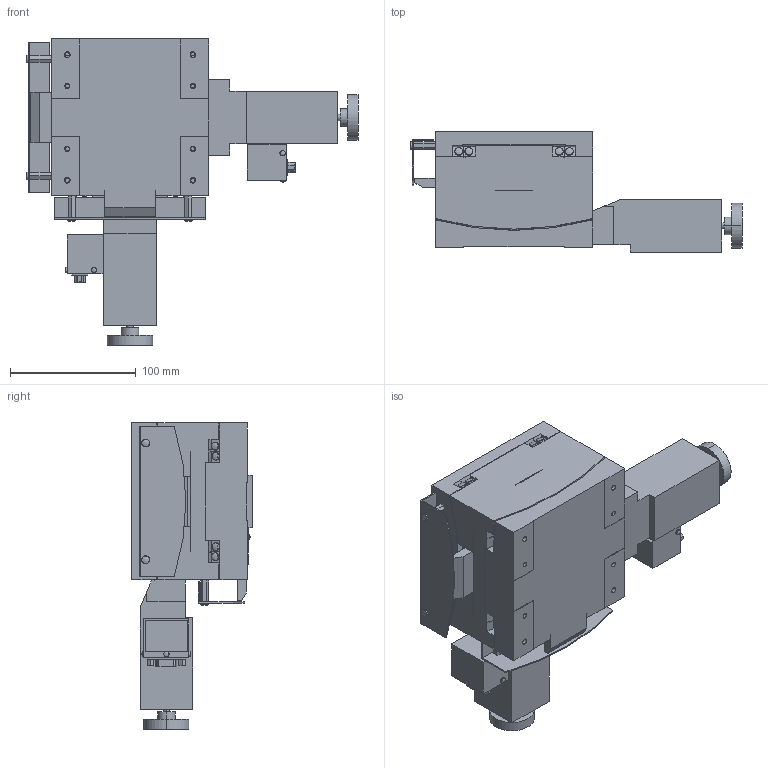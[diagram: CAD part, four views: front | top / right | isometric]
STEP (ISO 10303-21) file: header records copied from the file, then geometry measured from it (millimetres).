
FILE_DESCRIPTION (( 'STEP AP203' ), '1' );
FILE_NAME ('ATD-115-HP.STEP', '2008-03-26T09:48:20', ( '' ), ( '' ), 'SwSTEP 2.0', 'SolidWorks 2007', '' );
FILE_SCHEMA (( 'CONFIG_CONTROL_DESIGN' ));
Length unit declared in the file: millimetre
Products named in the file (4): ATD-115-HP; ATD-115-HP-1_蹬怮椔; ATD-115-HP-2_蹬怮椔; ATD-115-HP-3_蹬怮椔
Assembly tree (3 placements, depth 2):
  ATD-115-HP
    ATD-115-HP-1_蹬怮椔
    ATD-115-HP-3_蹬怮椔
    ATD-115-HP-2_蹬怮椔
Bounding box: 264.32 x 95.8 x 244.27 mm (x, y, z)
Volume: 1801814.6 mm3; surface area: 281971.2 mm2
Topology: 3 solids, 7 shells, 834 faces, 2090 edges, 1384 vertices
Faces by surface type: plane 392, cylinder 348, cone 52, sphere 32, bspline 10
Entity records: 30038 total; most frequent: CARTESIAN_POINT 9030, DIRECTION 4346, ORIENTED_EDGE 4180, EDGE_CURVE 2090, AXIS2_PLACEMENT_3D 1594, VERTEX_POINT 1384, VECTOR 1158, LINE 1158
